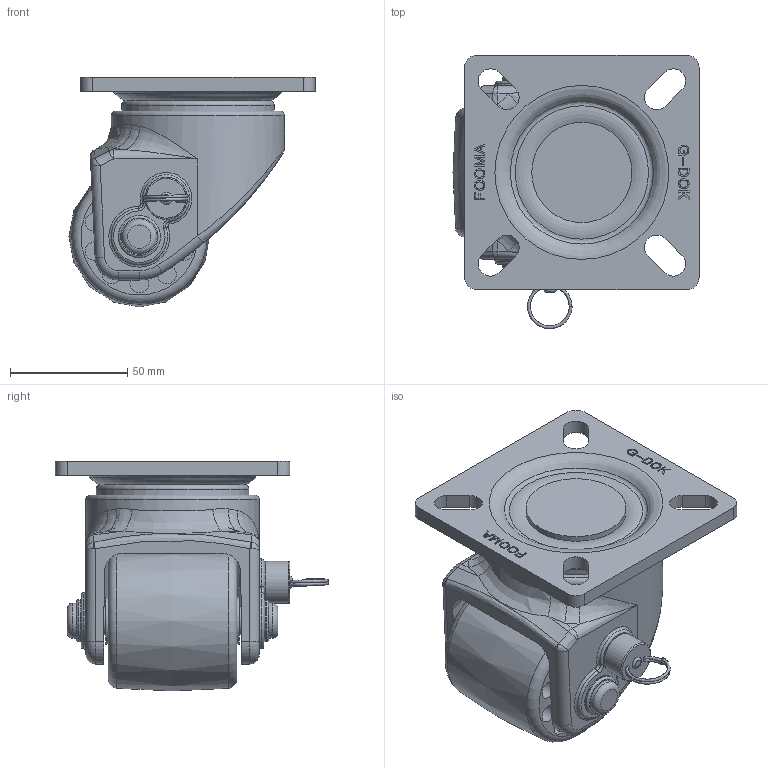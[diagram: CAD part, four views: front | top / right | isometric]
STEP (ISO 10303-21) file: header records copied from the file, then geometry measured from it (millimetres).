
FILE_DESCRIPTION((' '),'2;1');
FILE_NAME('E:\Temp\3d\GLH-60\GLH-60-BSF-PHS.stp','2013-07-08T13:27:12',(' '),(' '),' ','ACIS',' ');
FILE_SCHEMA(('CONFIG_CONTROL_DESIGN'));
Length unit declared in the file: millimetre
Products named in the file (1): E:\Temp\3d\GLH-60\GLH-60-BSF-PHS.stp
Bounding box: 105 x 116.61 x 98.13 mm (x, y, z)
Volume: 356894.5 mm3; surface area: 68260.9 mm2
Topology: 1 solids, 2 shells, 697 faces, 1830 edges, 1187 vertices
Faces by surface type: plane 459, bspline 102, cylinder 64, torus 28, cone 24, sphere 20
Full cylindrical faces by diameter (mm): 7.8 x1, 8 x20, 11.95 x2, 12.2 x2, 12.676 x1, 13 x2, 15 x2, 18 x3, 20 x2, 42.8 x1, 65.14 x1, 74 x1
Entity records: 31160 total; most frequent: CARTESIAN_POINT 14426, ORIENTED_EDGE 3484, DIRECTION 3232, EDGE_CURVE 1742, VECTOR 1178, LINE 1178, VERTEX_POINT 1170, AXIS2_PLACEMENT_3D 1027
